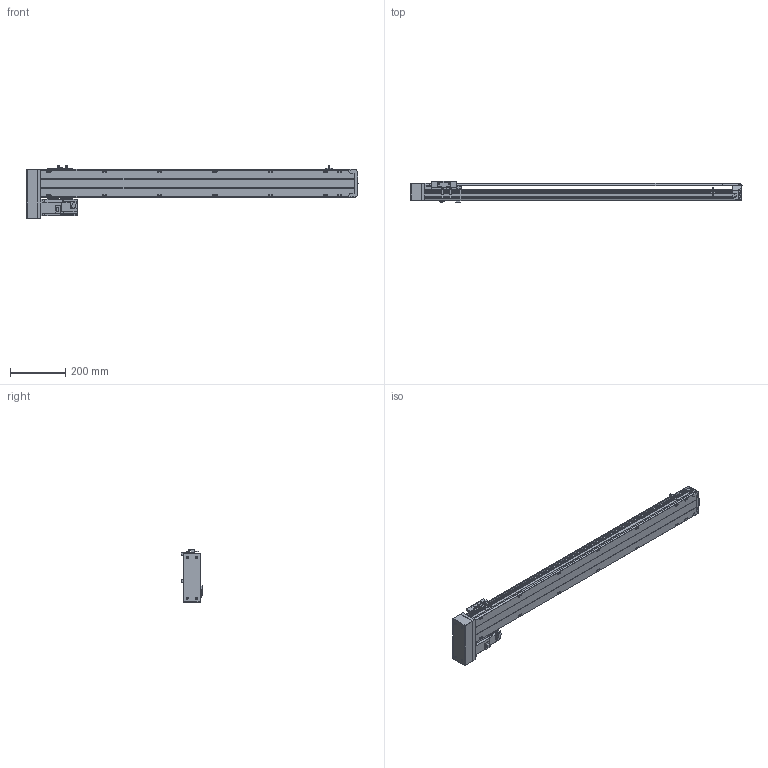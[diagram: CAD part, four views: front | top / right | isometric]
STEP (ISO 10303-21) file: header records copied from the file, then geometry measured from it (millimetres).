
FILE_DESCRIPTION(/* description */ ('STEP AP214'),/* implementation_level */ '2;1');
FILE_NAME(/* name */ 'PSS120-L10-S950-BR-T40-C1-N(0)',/* time_stamp */ '2022-06-06T02:31:03+02:00',/* author */ ('License CC BY-ND 4.0'),/* organization */ ('CADENAS'),/* preprocessor_version */ 'ST-DEVELOPER v18.102',/* originating_system */ 'PARTsolutions',/* authorisation */ ' ');
FILE_SCHEMA (('AUTOMOTIVE_DESIGN {1 0 10303 214 3 1 1}'));
Length unit declared in the file: millimetre
Products named in the file (8): PSS120-L10-S950-BR-T40-C1-N(0); PSS120-S950-BR-N_S; T40-p1; PSS120BR-N_h; PSS120-N_sensor; PSS120-BR-C1-N_sl; PSS120-N_Q; PSS120-S950-BR-C1-N_body
Assembly tree (9 placements, depth 2):
  PSS120-L10-S950-BR-T40-C1-N(0)
    PSS120-S950-BR-N_S
    T40-p1
    PSS120BR-N_h
    PSS120-N_sensor  x3
    PSS120-BR-C1-N_sl
    PSS120-N_Q
    PSS120-S950-BR-C1-N_body
Bounding box: 1199.35 x 76.8 x 191.2 mm (x, y, z)
Volume: 4569645.2 mm3; surface area: 774440.6 mm2
Topology: 9 solids, 9 shells, 864 faces, 2309 edges, 1526 vertices
Faces by surface type: plane 601, cylinder 237, cone 22, sphere 4
Full cylindrical faces by diameter (mm): 2.8 x3, 4 x4, 4.134 x18, 4.4 x2, 4.5 x4, 4.6 x3, 5 x6, 5.5 x21, 7 x2, 7.4 x4, 8 x4, 8.5 x18, 14 x1, 28 x1, 32 x2, 50 x1
Entity records: 23251 total; most frequent: CARTESIAN_POINT 4209, DIRECTION 3877, ORIENTED_EDGE 3766, EDGE_CURVE 1883, LINE 1333, VECTOR 1333, VERTEX_POINT 1308, AXIS2_PLACEMENT_3D 1272
